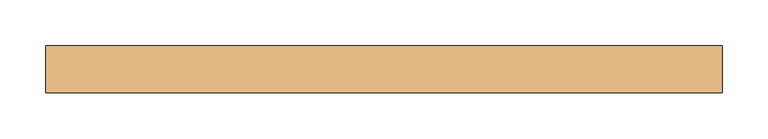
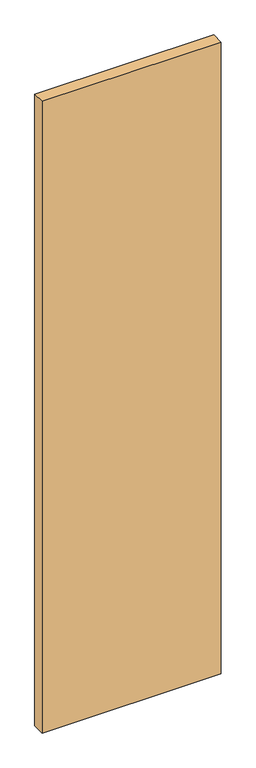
"""IFC4 building model written with IfcOpenShell, lengths in millimetres: door geometry, Planitar - Swap_Flush Panel : Planitar - Swap_Flush Panel."""

from ifc_helpers import new_model, si_unit, origin, origin_with_axes, place, context, project, spatial, polyline, outline, extrude, source, transform, mapped, element, save


def door_301a0385(model_context):
    return source(origin(), model_context, "Body", "SweptSolid", [
        extrude(outline(polyline([(368.3, -25.4), (-368.3, -25.4), (-368.3, 25.4), (368.3, 25.4), (368.3, -25.4)])), origin_with_axes(), (0.0, 0.0, 1.0), 2743.2),
    ])


if __name__ == "__main__":
    model = new_model("IFC4")
    model_context = context("Model", 3, world=origin())
    ifc_project = project(units=[si_unit("LENGTHUNIT", "METRE", prefix="MILLI")], contexts=[model_context])
    site = spatial("IfcSite", under=ifc_project)
    building = spatial("IfcBuilding", under=site)
    placement = place(None, origin())
    door_shape = door_301a0385(model_context)
    element("IfcDoor", 1, ObjectType="Planitar - Swap_Flush Panel : Planitar - Swap_Flush Panel", at=placement, inside=building, context=model_context, shape_type="MappedRepresentation", body=[
        mapped(door_shape, transform((0.0, 0.0, 0.0), x_axis=(1.0, 0.0, 0.0), y_axis=(0.0, 1.0, 0.0), z_axis=(0.0, 0.0, 1.0))),
    ])
    save(model, "model.ifc")
